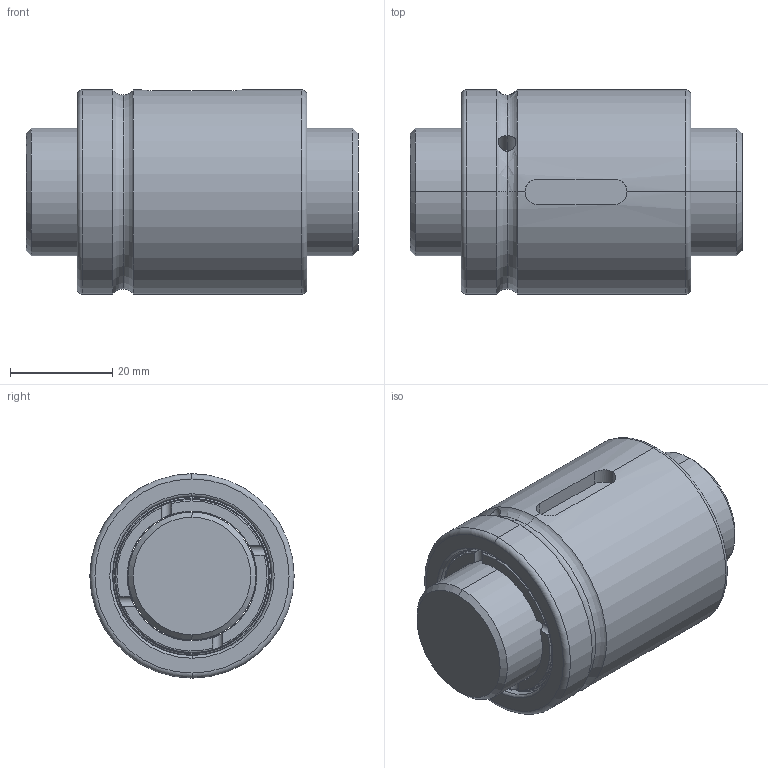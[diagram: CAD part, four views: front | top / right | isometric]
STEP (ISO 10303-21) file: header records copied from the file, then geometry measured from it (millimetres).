
FILE_DESCRIPTION (( 'STEP AP203' ), '1' );
FILE_NAME ('SCIR02505T4-C.STEP', '2020-06-17T07:35:55', ( '' ), ( '' ), 'SwSTEP 2.0', 'SolidWorks 2013', '' );
FILE_SCHEMA (( 'CONFIG_CONTROL_DESIGN' ));
Length unit declared in the file: millimetre
Products named in the file (1): SCIR02505T4-C
Bounding box: 65 x 40 x 40 mm (x, y, z)
Volume: 62598.7 mm3; surface area: 19518.2 mm2
Topology: 2 solids, 2 shells, 100 faces, 244 edges, 153 vertices
Faces by surface type: cylinder 43, torus 32, plane 21, cone 4
Entity records: 3817 total; most frequent: CARTESIAN_POINT 1374, DIRECTION 524, ORIENTED_EDGE 488, EDGE_CURVE 244, AXIS2_PLACEMENT_3D 235, VERTEX_POINT 153, CIRCLE 134, EDGE_LOOP 109
